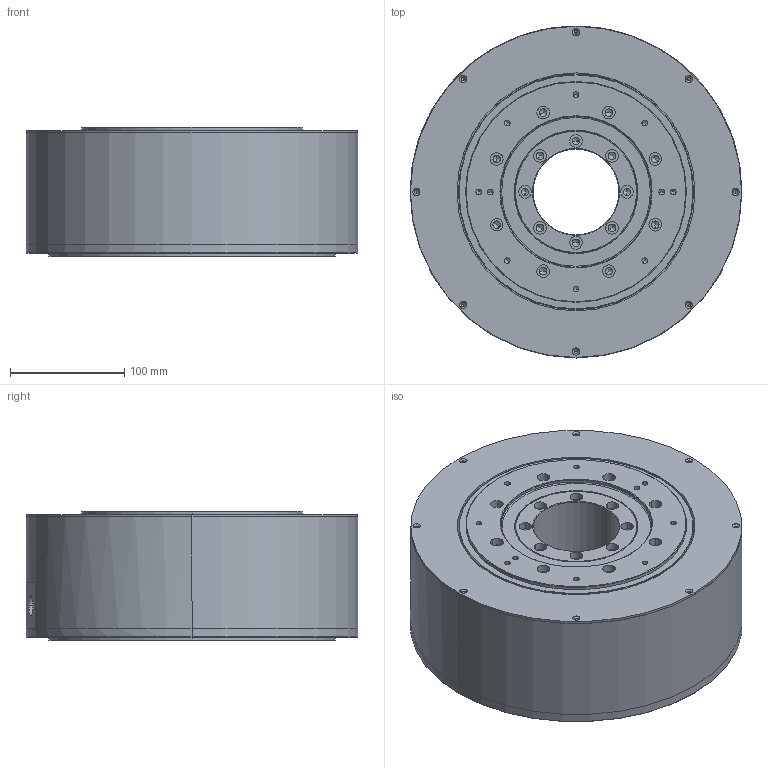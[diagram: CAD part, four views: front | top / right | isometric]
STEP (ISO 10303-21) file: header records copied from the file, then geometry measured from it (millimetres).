
FILE_DESCRIPTION((''),'2;1');
FILE_NAME('PM-DDE60D','2016-02-05T',('jb17719'),(''),'PRO/ENGINEER BY PARAMETRIC TECHNOLOGY CORPORATION, 2008070','PRO/ENGINEER BY PARAMETRIC TECHNOLOGY CORPORATION, 2008070','');
FILE_SCHEMA(('AUTOMOTIVE_DESIGN_CC2 { 1 2 10303 214 -1 1 5 2 }'));
Length unit declared in the file: millimetre
Products named in the file (1): PM-DDE60D
Bounding box: 290 x 290 x 113.4 mm (x, y, z)
Volume: 6579221.5 mm3; surface area: 465948.9 mm2
Topology: 1 solids, 1 shells, 371 faces, 854 edges, 467 vertices
Faces by surface type: cylinder 186, cone 140, plane 43, torus 2
Entity records: 10069 total; most frequent: DIRECTION 1888, CARTESIAN_POINT 1690, ORIENTED_EDGE 1496, AXIS2_PLACEMENT_3D 777, EDGE_CURVE 748, VERTEX_POINT 467, EDGE_LOOP 465, CIRCLE 406
